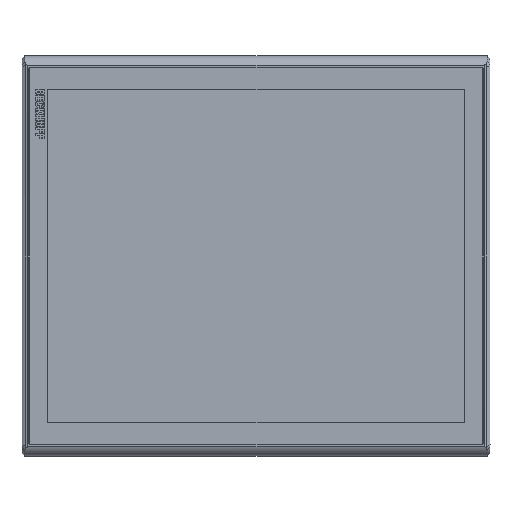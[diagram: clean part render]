
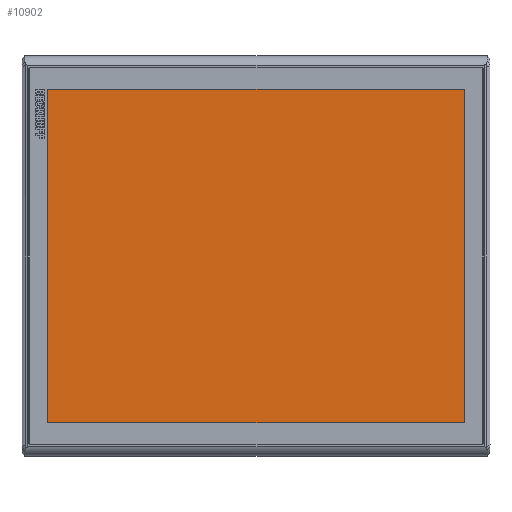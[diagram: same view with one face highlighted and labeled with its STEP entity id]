
A CAD part, front view. The second image highlights one B-rep face of the part: STEP entity #10902.
In plain terms, the highlighted planar face has unit normal (0, -1, 0).
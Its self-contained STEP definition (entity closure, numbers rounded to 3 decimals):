
#1124=LINE('',#20770,#1847);
#1125=LINE('',#20772,#1848);
#1126=LINE('',#20774,#1849);
#1127=LINE('',#20775,#1850);
#1847=VECTOR('',#14810,303.1);
#1848=VECTOR('',#14811,378.32);
#1849=VECTOR('',#14812,303.1);
#1850=VECTOR('',#14813,378.32);
#2923=FACE_OUTER_BOUND('',#3743,.T.);
#3743=EDGE_LOOP('',(#9264,#9265,#9266,#9267));
#5123=VERTEX_POINT('',#20768);
#5124=VERTEX_POINT('',#20769);
#5125=VERTEX_POINT('',#20771);
#5126=VERTEX_POINT('',#20773);
#6515=EDGE_CURVE('',#5123,#5124,#1124,.T.);
#6516=EDGE_CURVE('',#5125,#5123,#1125,.T.);
#6517=EDGE_CURVE('',#5126,#5125,#1126,.T.);
#6518=EDGE_CURVE('',#5124,#5126,#1127,.T.);
#9264=ORIENTED_EDGE('',*,*,#6515,.F.);
#9265=ORIENTED_EDGE('',*,*,#6516,.F.);
#9266=ORIENTED_EDGE('',*,*,#6517,.F.);
#9267=ORIENTED_EDGE('',*,*,#6518,.F.);
#9680=PLANE('',#11980);
#10902=ADVANCED_FACE('',(#2923),#9680,.T.);
#11980=AXIS2_PLACEMENT_3D('',#20767,#14808,#14809);
#14808=DIRECTION('center_axis',(0.,-1.,0.));
#14809=DIRECTION('ref_axis',(0.,0.,-1.));
#14810=DIRECTION('',(0.,0.,-1.));
#14811=DIRECTION('',(1.,0.,0.));
#14812=DIRECTION('',(0.,0.,1.));
#14813=DIRECTION('',(-1.,0.,0.));
#20767=CARTESIAN_POINT('Origin',(0.,140.471,
-59.098));
#20768=CARTESIAN_POINT('',(189.16,140.471,92.452));
#20769=CARTESIAN_POINT('',(189.16,140.471,-210.648));
#20770=CARTESIAN_POINT('',(189.16,140.471,-134.873));
#20771=CARTESIAN_POINT('',(-189.16,140.471,92.452));
#20772=CARTESIAN_POINT('',(94.58,140.471,92.452));
#20773=CARTESIAN_POINT('',(-189.16,140.471,-210.648));
#20774=CARTESIAN_POINT('',(-189.16,140.471,16.677));
#20775=CARTESIAN_POINT('',(-94.58,140.471,-210.648));
